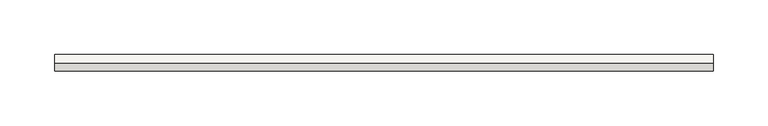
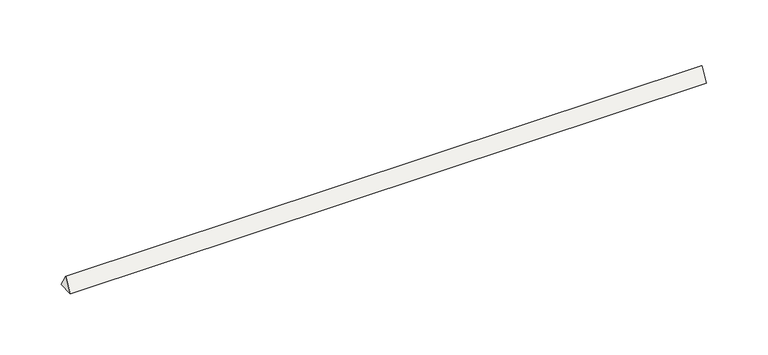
"""IFC4 building model written with IfcOpenShell, lengths in millimetres: covering geometry, SikaSwell® S-2 : SikaSwell® S-2 (sección triangular 15 mm)."""

from ifc_helpers import new_model, si_unit, frame, origin, place, context, project, spatial, polyline, outline, extrude, source, transform, mapped, element, save


def covering_dad587f7(model_context):
    return source(origin(), model_context, "Body", "SweptSolid", [
        extrude(outline(polyline([(-7.5, 0.0), (0.0, 12.9903811), (7.5, 0.0), (-7.5, 0.0)])), frame((0.0, 0.0, 0.0), z_axis=(1.0, 0.0, 0.0), x_axis=(0.0, 1.0, 0.0)), (0.0, 0.0, 1.0), 600.0),
    ])


if __name__ == "__main__":
    model = new_model("IFC4")
    model_context = context("Model", 3, world=origin())
    ifc_project = project(units=[si_unit("LENGTHUNIT", "METRE", prefix="MILLI")], contexts=[model_context])
    site = spatial("IfcSite", under=ifc_project)
    building = spatial("IfcBuilding", under=site)
    placement = place(None, origin())
    covering_shape = covering_dad587f7(model_context)
    element("IfcCovering", 1, ObjectType="SikaSwell® S-2 : SikaSwell® S-2 (sección triangular 15 mm)", at=placement, inside=building, context=model_context, shape_type="MappedRepresentation", body=[
        mapped(covering_shape, transform((0.0, 0.0, 0.0), x_axis=(1.0, 0.0, 0.0), y_axis=(0.0, 1.0, 0.0), z_axis=(0.0, 0.0, 1.0))),
    ])
    save(model, "model.ifc")
